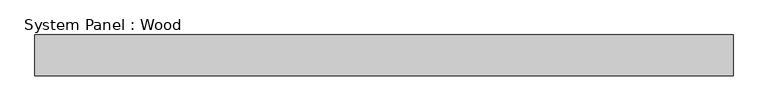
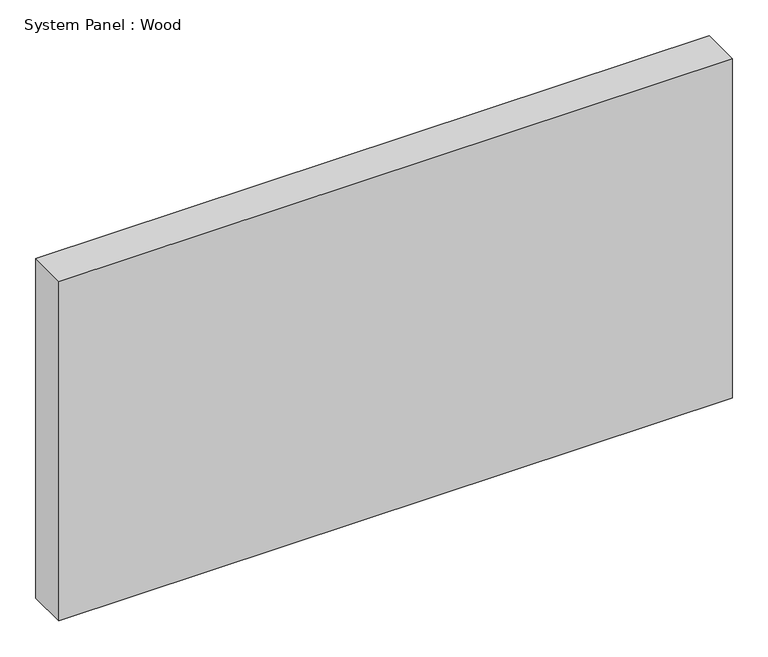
"""IFC4 building model written with IfcOpenShell, lengths in millimetres: plate geometry, System Panel : Wood."""

from ifc_helpers import new_model, si_unit, origin, origin_with_axes, place, context, project, spatial, polyline, outline, extrude, source, transform, mapped, element, save


def system_panel_wood_a7d880d0(model_context):
    return source(origin(), model_context, "Body", "SweptSolid", [
        extrude(outline(polyline([(541.655, -44.45), (-541.655, -44.45), (-541.655, 19.05), (541.655, 19.05), (541.655, -44.45)])), origin_with_axes(), (0.0, 0.0, 1.0), 577.85),
    ])


if __name__ == "__main__":
    model = new_model("IFC4")
    model_context = context("Model", 3, world=origin())
    ifc_project = project(units=[si_unit("LENGTHUNIT", "METRE", prefix="MILLI")], contexts=[model_context])
    site = spatial("IfcSite", under=ifc_project)
    building = spatial("IfcBuilding", under=site)
    placement = place(None, origin())
    system_panel_wood_shape = system_panel_wood_a7d880d0(model_context)
    element("IfcPlate", 1, ObjectType="System Panel : Wood", at=placement, inside=building, context=model_context, shape_type="MappedRepresentation", body=[
        mapped(system_panel_wood_shape, transform((0.0, 0.0, 0.0), x_axis=(1.0, 0.0, 0.0), y_axis=(0.0, 1.0, 0.0), z_axis=(0.0, 0.0, 1.0))),
    ])
    save(model, "model.ifc")
